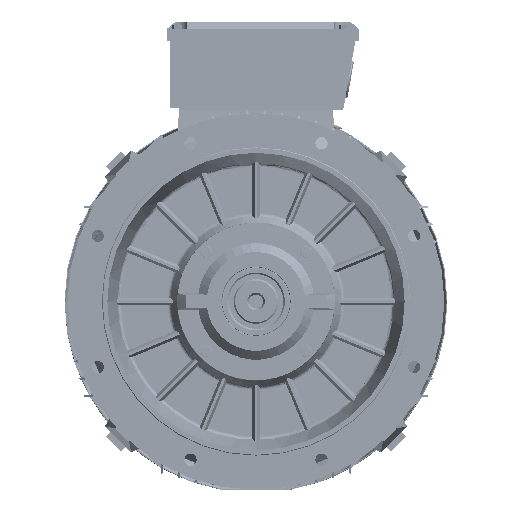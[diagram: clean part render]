
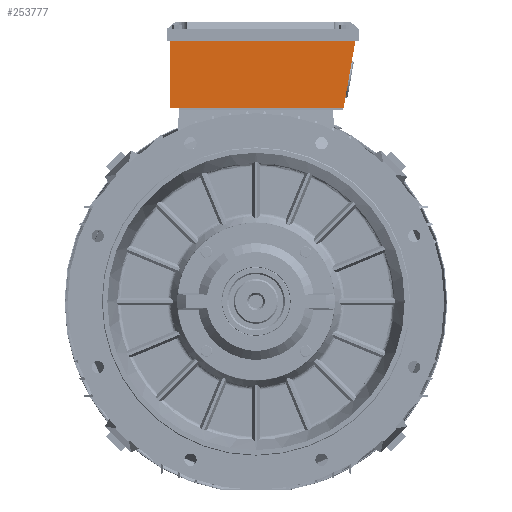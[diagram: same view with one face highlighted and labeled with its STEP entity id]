
A CAD part, left-side view. The second image highlights one B-rep face of the part: STEP entity #253777.
In plain terms, the highlighted planar face has unit normal (-1, 0, 0) as drawn and (0, 0, 1) by its records, which use the part's own axes.
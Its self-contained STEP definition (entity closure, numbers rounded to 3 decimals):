
#253024 = VERTEX_POINT ( 'NONE', #301588 ) ;
#253032 = EDGE_CURVE ( 'NONE', #253041, #253024, #301583, .T. ) ;
#253041 = VERTEX_POINT ( 'NONE', #301694 ) ;
#253693 = EDGE_LOOP ( 'NONE', ( #253782, #253793, #253797, #253814 ) ) ;
#253777 = ADVANCED_FACE ( 'NONE', ( #302579 ), #302572, .T. ) ;
#253782 = ORIENTED_EDGE ( 'NONE', *, *, #253785, .T. ) ;
#253785 = EDGE_CURVE ( 'NONE', #253791, #253041, #302566, .T. ) ;
#253791 = VERTEX_POINT ( 'NONE', #302553 ) ;
#253793 = ORIENTED_EDGE ( 'NONE', *, *, #253032, .T. ) ;
#253797 = ORIENTED_EDGE ( 'NONE', *, *, #253801, .T. ) ;
#253801 = EDGE_CURVE ( 'NONE', #253024, #253804, #302541, .T. ) ;
#253804 = VERTEX_POINT ( 'NONE', #302534 ) ;
#253814 = ORIENTED_EDGE ( 'NONE', *, *, #253819, .T. ) ;
#253819 = EDGE_CURVE ( 'NONE', #253804, #253791, #302642, .T. ) ;
#301579 = DIRECTION ( 'NONE',  ( 0.174, 0.985, 0. ) ) ;
#301581 = VECTOR ( 'NONE', #301579, 1000. ) ;
#301582 = CARTESIAN_POINT ( 'NONE',  ( 253.4, 0., 118.5 ) ) ;
#301583 = LINE ( 'NONE', #301582, #301581 ) ;
#301588 = CARTESIAN_POINT ( 'NONE',  ( 271.033, 100., 118.5 ) ) ;
#301694 = CARTESIAN_POINT ( 'NONE',  ( 253.929, 3., 118.5 ) ) ;
#302534 = CARTESIAN_POINT ( 'NONE',  ( 0., 100., 118.5 ) ) ;
#302535 = DIRECTION ( 'NONE',  ( -1., 0., 0. ) ) ;
#302537 = VECTOR ( 'NONE', #302535, 1000. ) ;
#302539 = CARTESIAN_POINT ( 'NONE',  ( 0., 100., 118.5 ) ) ;
#302541 = LINE ( 'NONE', #302539, #302537 ) ;
#302553 = CARTESIAN_POINT ( 'NONE',  ( 0., 3., 118.5 ) ) ;
#302556 = DIRECTION ( 'NONE',  ( 1., 0., 0. ) ) ;
#302558 = VECTOR ( 'NONE', #302556, 1000. ) ;
#302560 = CARTESIAN_POINT ( 'NONE',  ( 0., 3., 118.5 ) ) ;
#302561 = DIRECTION ( 'NONE',  ( 1., 0., 0. ) ) ;
#302562 = DIRECTION ( 'NONE',  ( 0., 0., 1. ) ) ;
#302564 = AXIS2_PLACEMENT_3D ( 'NONE', #302570, #302562, #302561 ) ;
#302566 = LINE ( 'NONE', #302560, #302558 ) ;
#302570 = CARTESIAN_POINT ( 'NONE',  ( 13.5, 0., 118.5 ) ) ;
#302572 = PLANE ( 'NONE',  #302564 ) ;
#302579 = FACE_OUTER_BOUND ( 'NONE', #253693, .T. ) ;
#302638 = DIRECTION ( 'NONE',  ( 0., -1., 0. ) ) ;
#302639 = VECTOR ( 'NONE', #302638, 1000. ) ;
#302640 = CARTESIAN_POINT ( 'NONE',  ( 0., 3., 118.5 ) ) ;
#302642 = LINE ( 'NONE', #302640, #302639 ) ;
